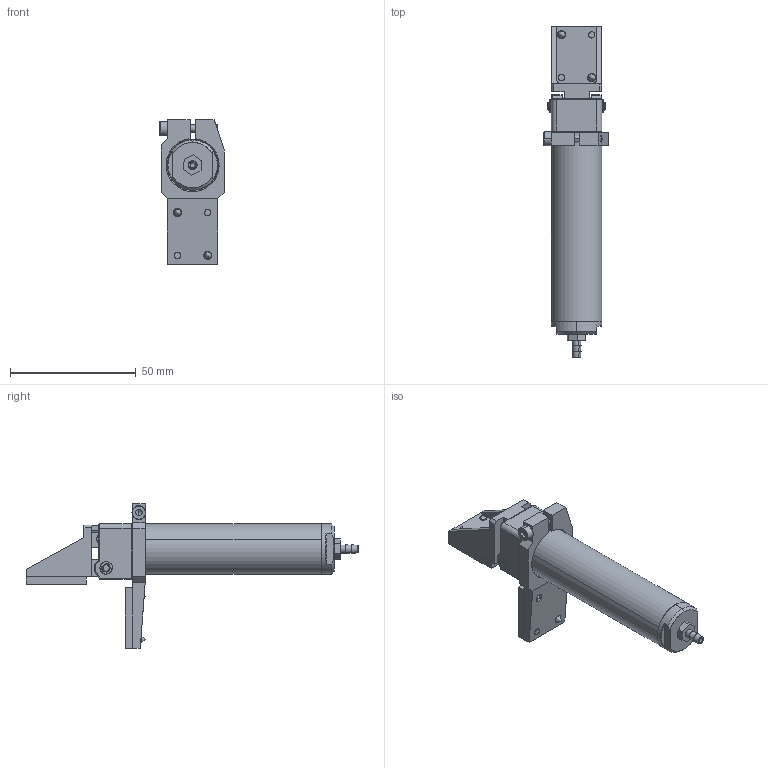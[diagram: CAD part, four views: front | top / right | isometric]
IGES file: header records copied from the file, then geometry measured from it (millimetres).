
Start section: SolidWorks IGES file using analytic representation for surfaces
Global section: file name: \\172.16.1.143\star‹¤—L\050ŠJ”­•”\001.‹@Ží‚²‚ÆŽ‘—¿\eins\J25410G-30,40\J25410G-30\090263.IGS; native system: SolidWorks 2021; preprocessor: SolidWorks 2021; author: STAR089C; date: 220201.150827; units: millimetre
Bounding box: 25.5 x 131.75 x 57.35 mm (x, y, z)
Surface area: 23338.3 mm2 (no closed solid volume)
Topology: 0 solids, 0 shells, 820 faces, 9278 edges, 9270 vertices
Faces by surface type: bspline 445, revolution 375
